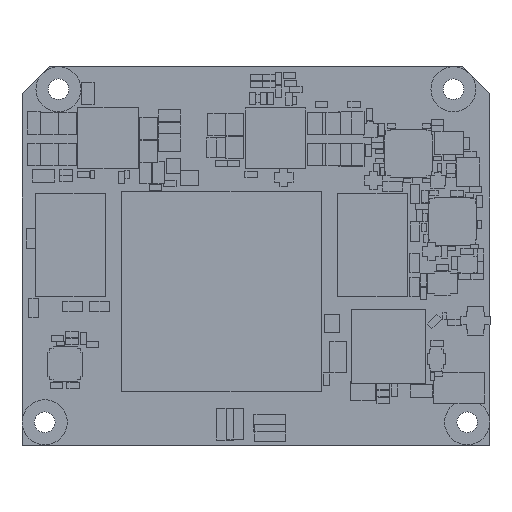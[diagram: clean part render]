
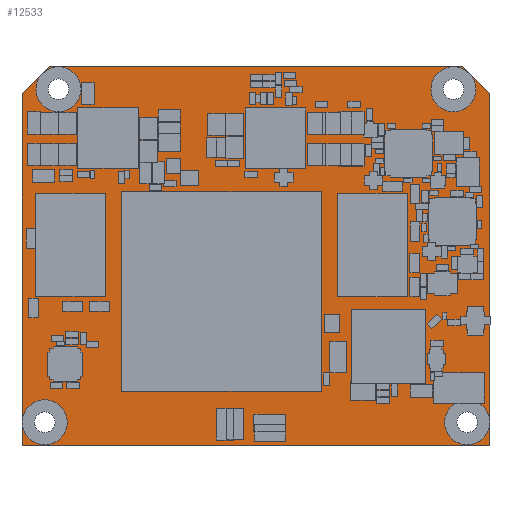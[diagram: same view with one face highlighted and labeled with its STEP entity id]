
A CAD part, top view. The second image highlights one B-rep face of the part: STEP entity #12533.
In plain terms, the highlighted planar face has unit normal (0, 0, 1).
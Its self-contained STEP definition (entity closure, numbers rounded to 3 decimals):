
#827 = VECTOR ( 'NONE', #63361, 1000. ) ;
#2104 = DIRECTION ( 'NONE',  ( 1., 0., 0. ) ) ;
#3879 = VERTEX_POINT ( 'NONE', #71474 ) ;
#5108 = CARTESIAN_POINT ( 'NONE',  ( 66.197, 3.34, 1.158 ) ) ;
#5391 = EDGE_CURVE ( 'NONE', #126889, #69180, #37180, .T. ) ;
#5512 = EDGE_CURVE ( 'NONE', #3879, #126889, #97854, .T. ) ;
#8455 = CARTESIAN_POINT ( 'NONE',  ( 68., 51.063, 1.158 ) ) ;
#8514 = DIRECTION ( 'NONE',  ( 0., -1., 0. ) ) ;
#10298 = CARTESIAN_POINT ( 'NONE',  ( 5.302, 51.736, 1.158 ) ) ;
#12481 = ORIENTED_EDGE ( 'NONE', *, *, #24498, .F. ) ;
#12533 = ADVANCED_FACE ( 'NONE', ( #133777, #131570, #18888, #19634, #53498 ), #28750, .T. ) ;
#13173 = CIRCLE ( 'NONE', #97133, 1.499 ) ;
#18179 = EDGE_CURVE ( 'NONE', #97045, #128900, #29065, .T. ) ;
#18481 = ORIENTED_EDGE ( 'NONE', *, *, #18179, .F. ) ;
#18625 = ORIENTED_EDGE ( 'NONE', *, *, #131678, .F. ) ;
#18888 = FACE_BOUND ( 'NONE', #26065, .T. ) ;
#19634 = FACE_BOUND ( 'NONE', #86200, .T. ) ;
#21513 = VERTEX_POINT ( 'NONE', #21664 ) ;
#21664 = CARTESIAN_POINT ( 'NONE',  ( 6.801, 51.736, 1.158 ) ) ;
#23169 = CARTESIAN_POINT ( 'NONE',  ( 0., 51.063, 1.158 ) ) ;
#23880 = EDGE_CURVE ( 'NONE', #145977, #54426, #72689, .T. ) ;
#24498 = EDGE_CURVE ( 'NONE', #21513, #145372, #60608, .T. ) ;
#25677 = ORIENTED_EDGE ( 'NONE', *, *, #5512, .T. ) ;
#26065 = EDGE_LOOP ( 'NONE', ( #18481, #110356 ) ) ;
#28360 = DIRECTION ( 'NONE',  ( -0.707, -0.707, 0. ) ) ;
#28750 = PLANE ( 'NONE',  #85692 ) ;
#29065 = CIRCLE ( 'NONE', #113015, 1.499 ) ;
#29455 = DIRECTION ( 'NONE',  ( 0., 0., 1. ) ) ;
#30077 = DIRECTION ( 'NONE',  ( 1., 0., 0. ) ) ;
#30339 = CARTESIAN_POINT ( 'NONE',  ( 0., 51.063, 1.158 ) ) ;
#31852 = LINE ( 'NONE', #30339, #93224 ) ;
#32133 = DIRECTION ( 'NONE',  ( 0., 0., 1. ) ) ;
#33855 = AXIS2_PLACEMENT_3D ( 'NONE', #10298, #32133, #113187 ) ;
#35970 = ORIENTED_EDGE ( 'NONE', *, *, #5391, .T. ) ;
#36893 = VECTOR ( 'NONE', #37137, 1000. ) ;
#37137 = DIRECTION ( 'NONE',  ( 0., 1., 0. ) ) ;
#37180 = LINE ( 'NONE', #128679, #70455 ) ;
#38565 = CARTESIAN_POINT ( 'NONE',  ( 3.302, 3.34, 1.158 ) ) ;
#38640 = AXIS2_PLACEMENT_3D ( 'NONE', #87145, #53332, #30077 ) ;
#39545 = AXIS2_PLACEMENT_3D ( 'NONE', #122035, #86771, #63505 ) ;
#39882 = EDGE_LOOP ( 'NONE', ( #12481, #18625 ) ) ;
#41822 = VERTEX_POINT ( 'NONE', #138702 ) ;
#42314 = DIRECTION ( 'NONE',  ( 1., 0., 0. ) ) ;
#43152 = VERTEX_POINT ( 'NONE', #5108 ) ;
#43265 = CARTESIAN_POINT ( 'NONE',  ( 1.803, 3.34, 1.158 ) ) ;
#44793 = VERTEX_POINT ( 'NONE', #23169 ) ;
#49122 = DIRECTION ( 'NONE',  ( -1., 0., 0. ) ) ;
#49384 = DIRECTION ( 'NONE',  ( 1., 0., 0. ) ) ;
#53332 = DIRECTION ( 'NONE',  ( 0., 0., 1. ) ) ;
#53498 = FACE_OUTER_BOUND ( 'NONE', #76329, .T. ) ;
#54426 = VERTEX_POINT ( 'NONE', #75213 ) ;
#54724 = AXIS2_PLACEMENT_3D ( 'NONE', #63349, #121867, #42314 ) ;
#60608 = CIRCLE ( 'NONE', #120468, 1.499 ) ;
#60662 = CARTESIAN_POINT ( 'NONE',  ( 64.698, 3.34, 1.158 ) ) ;
#60780 = CARTESIAN_POINT ( 'NONE',  ( 0., 0., 1.158 ) ) ;
#61214 = EDGE_CURVE ( 'NONE', #140628, #71852, #104173, .T. ) ;
#63349 = CARTESIAN_POINT ( 'NONE',  ( 62.698, 51.736, 1.158 ) ) ;
#63361 = DIRECTION ( 'NONE',  ( -0.707, 0.707, 0. ) ) ;
#63505 = DIRECTION ( 'NONE',  ( 1., 0., 0. ) ) ;
#67031 = DIRECTION ( 'NONE',  ( 0., 0., 1. ) ) ;
#67136 = ORIENTED_EDGE ( 'NONE', *, *, #61214, .F. ) ;
#67369 = CARTESIAN_POINT ( 'NONE',  ( 61.2, 51.736, 1.158 ) ) ;
#69180 = VERTEX_POINT ( 'NONE', #127098 ) ;
#70455 = VECTOR ( 'NONE', #49122, 1000. ) ;
#71474 = CARTESIAN_POINT ( 'NONE',  ( 68., 51.063, 1.158 ) ) ;
#71716 = CARTESIAN_POINT ( 'NONE',  ( 64.063, 55., 1.158 ) ) ;
#71852 = VERTEX_POINT ( 'NONE', #90022 ) ;
#72689 = LINE ( 'NONE', #118430, #81909 ) ;
#75213 = CARTESIAN_POINT ( 'NONE',  ( 68., 0., 1.158 ) ) ;
#75271 = DIRECTION ( 'NONE',  ( 1., 0., 0. ) ) ;
#76329 = EDGE_LOOP ( 'NONE', ( #144937, #88437, #25677, #35970, #83248, #90722 ) ) ;
#76712 = VECTOR ( 'NONE', #28360, 1000. ) ;
#79782 = CARTESIAN_POINT ( 'NONE',  ( 0., 0., 1.158 ) ) ;
#81091 = CIRCLE ( 'NONE', #54724, 1.499 ) ;
#81731 = CARTESIAN_POINT ( 'NONE',  ( 64.698, 3.34, 1.158 ) ) ;
#81909 = VECTOR ( 'NONE', #49384, 1000. ) ;
#83248 = ORIENTED_EDGE ( 'NONE', *, *, #84110, .T. ) ;
#83565 = DIRECTION ( 'NONE',  ( 0., 0., 1. ) ) ;
#84110 = EDGE_CURVE ( 'NONE', #69180, #44793, #144647, .T. ) ;
#85692 = AXIS2_PLACEMENT_3D ( 'NONE', #79782, #67031, #90954 ) ;
#85828 = LINE ( 'NONE', #139897, #36893 ) ;
#86200 = EDGE_LOOP ( 'NONE', ( #104224, #99759 ) ) ;
#86771 = DIRECTION ( 'NONE',  ( 0., 0., 1. ) ) ;
#87145 = CARTESIAN_POINT ( 'NONE',  ( 3.302, 3.34, 1.158 ) ) ;
#87263 = CARTESIAN_POINT ( 'NONE',  ( 5.302, 51.736, 1.158 ) ) ;
#87581 = EDGE_CURVE ( 'NONE', #43152, #41822, #13173, .T. ) ;
#88437 = ORIENTED_EDGE ( 'NONE', *, *, #109353, .T. ) ;
#89682 = CARTESIAN_POINT ( 'NONE',  ( 4.801, 3.34, 1.158 ) ) ;
#90022 = CARTESIAN_POINT ( 'NONE',  ( 64.197, 51.736, 1.158 ) ) ;
#90722 = ORIENTED_EDGE ( 'NONE', *, *, #118848, .T. ) ;
#90954 = DIRECTION ( 'NONE',  ( 1., 0., 0. ) ) ;
#92236 = DIRECTION ( 'NONE',  ( 0., 0., 1. ) ) ;
#93224 = VECTOR ( 'NONE', #8514, 1000. ) ;
#97045 = VERTEX_POINT ( 'NONE', #89682 ) ;
#97133 = AXIS2_PLACEMENT_3D ( 'NONE', #81731, #92236, #2104 ) ;
#97854 = LINE ( 'NONE', #8455, #827 ) ;
#97975 = EDGE_CURVE ( 'NONE', #71852, #140628, #81091, .T. ) ;
#98442 = CIRCLE ( 'NONE', #38640, 1.499 ) ;
#99759 = ORIENTED_EDGE ( 'NONE', *, *, #103030, .F. ) ;
#100301 = ORIENTED_EDGE ( 'NONE', *, *, #97975, .F. ) ;
#103030 = EDGE_CURVE ( 'NONE', #41822, #43152, #104222, .T. ) ;
#103681 = EDGE_LOOP ( 'NONE', ( #100301, #67136 ) ) ;
#104173 = CIRCLE ( 'NONE', #39545, 1.499 ) ;
#104222 = CIRCLE ( 'NONE', #121080, 1.499 ) ;
#104224 = ORIENTED_EDGE ( 'NONE', *, *, #87581, .F. ) ;
#108085 = CIRCLE ( 'NONE', #33855, 1.499 ) ;
#109353 = EDGE_CURVE ( 'NONE', #54426, #3879, #85828, .T. ) ;
#110356 = ORIENTED_EDGE ( 'NONE', *, *, #145097, .F. ) ;
#113015 = AXIS2_PLACEMENT_3D ( 'NONE', #38565, #83565, #130795 ) ;
#113187 = DIRECTION ( 'NONE',  ( 1., 0., 0. ) ) ;
#118430 = CARTESIAN_POINT ( 'NONE',  ( 0., 0., 1.158 ) ) ;
#118848 = EDGE_CURVE ( 'NONE', #44793, #145977, #31852, .T. ) ;
#120468 = AXIS2_PLACEMENT_3D ( 'NONE', #87263, #29455, #75271 ) ;
#121080 = AXIS2_PLACEMENT_3D ( 'NONE', #60662, #130402, #140907 ) ;
#121867 = DIRECTION ( 'NONE',  ( 0., 0., 1. ) ) ;
#122035 = CARTESIAN_POINT ( 'NONE',  ( 62.698, 51.736, 1.158 ) ) ;
#126889 = VERTEX_POINT ( 'NONE', #71716 ) ;
#127098 = CARTESIAN_POINT ( 'NONE',  ( 3.937, 55., 1.158 ) ) ;
#128679 = CARTESIAN_POINT ( 'NONE',  ( 64.063, 55., 1.158 ) ) ;
#128900 = VERTEX_POINT ( 'NONE', #43265 ) ;
#130402 = DIRECTION ( 'NONE',  ( 0., 0., 1. ) ) ;
#130795 = DIRECTION ( 'NONE',  ( 1., 0., 0. ) ) ;
#131162 = CARTESIAN_POINT ( 'NONE',  ( 3.937, 55., 1.158 ) ) ;
#131570 = FACE_BOUND ( 'NONE', #103681, .T. ) ;
#131678 = EDGE_CURVE ( 'NONE', #145372, #21513, #108085, .T. ) ;
#133777 = FACE_BOUND ( 'NONE', #39882, .T. ) ;
#136412 = CARTESIAN_POINT ( 'NONE',  ( 3.803, 51.736, 1.158 ) ) ;
#138702 = CARTESIAN_POINT ( 'NONE',  ( 63.2, 3.34, 1.158 ) ) ;
#139897 = CARTESIAN_POINT ( 'NONE',  ( 68., 0., 1.158 ) ) ;
#140628 = VERTEX_POINT ( 'NONE', #67369 ) ;
#140907 = DIRECTION ( 'NONE',  ( 1., 0., 0. ) ) ;
#144647 = LINE ( 'NONE', #131162, #76712 ) ;
#144937 = ORIENTED_EDGE ( 'NONE', *, *, #23880, .T. ) ;
#145097 = EDGE_CURVE ( 'NONE', #128900, #97045, #98442, .T. ) ;
#145372 = VERTEX_POINT ( 'NONE', #136412 ) ;
#145977 = VERTEX_POINT ( 'NONE', #60780 ) ;
